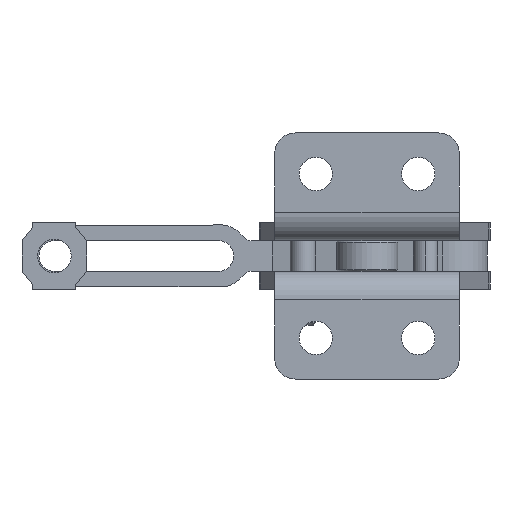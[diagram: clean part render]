
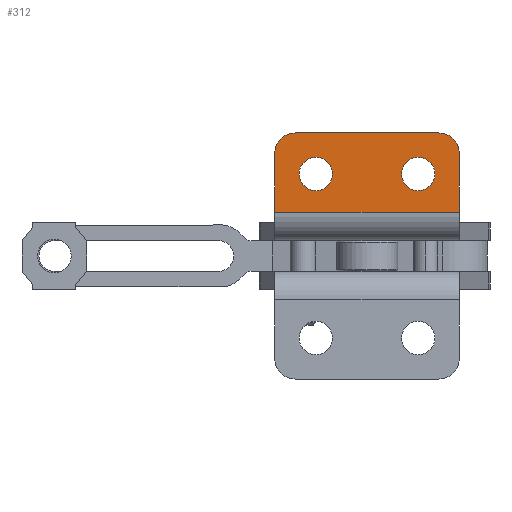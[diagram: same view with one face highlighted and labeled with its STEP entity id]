
A CAD part, front view. The second image highlights one B-rep face of the part: STEP entity #312.
In plain terms, the highlighted planar face has unit normal (0, -1, 0).
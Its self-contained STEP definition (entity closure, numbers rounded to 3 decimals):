
#312 = ADVANCED_FACE( '', ( #600, #601, #602 ), #603, .F. );
#600 = FACE_BOUND( '', #1200, .T. );
#601 = FACE_BOUND( '', #1201, .T. );
#602 = FACE_OUTER_BOUND( '', #1202, .T. );
#603 = PLANE( '', #1203 );
#1200 = EDGE_LOOP( '', ( #1956 ) );
#1201 = EDGE_LOOP( '', ( #1957 ) );
#1202 = EDGE_LOOP( '', ( #1958, #1959, #1960, #1961, #1962, #1963 ) );
#1203 = AXIS2_PLACEMENT_3D( '', #1964, #1965, #1966 );
#1956 = ORIENTED_EDGE( '', *, *, #3754, .T. );
#1957 = ORIENTED_EDGE( '', *, *, #3755, .T. );
#1958 = ORIENTED_EDGE( '', *, *, #3756, .F. );
#1959 = ORIENTED_EDGE( '', *, *, #3757, .F. );
#1960 = ORIENTED_EDGE( '', *, *, #3730, .F. );
#1961 = ORIENTED_EDGE( '', *, *, #3758, .F. );
#1962 = ORIENTED_EDGE( '', *, *, #3759, .T. );
#1963 = ORIENTED_EDGE( '', *, *, #3760, .F. );
#1964 = CARTESIAN_POINT( '', ( 3., 0., 24. ) );
#1965 = DIRECTION( '', ( 0., 1., 0. ) );
#1966 = DIRECTION( '', ( 0., 0., 1. ) );
#3730 = EDGE_CURVE( '', #4362, #4363, #4364, .T. );
#3754 = EDGE_CURVE( '', #4405, #4405, #4406, .T. );
#3755 = EDGE_CURVE( '', #4407, #4407, #4408, .T. );
#3756 = EDGE_CURVE( '', #4409, #4410, #4411, .T. );
#3757 = EDGE_CURVE( '', #4363, #4409, #4412, .T. );
#3758 = EDGE_CURVE( '', #4413, #4362, #4414, .T. );
#3759 = EDGE_CURVE( '', #4413, #4415, #4416, .T. );
#3760 = EDGE_CURVE( '', #4410, #4415, #4417, .T. );
#4362 = VERTEX_POINT( '', #5376 );
#4363 = VERTEX_POINT( '', #5377 );
#4364 = LINE( '', #5378, #5379 );
#4405 = VERTEX_POINT( '', #5439 );
#4406 = CIRCLE( '', #5440, 3.25 );
#4407 = VERTEX_POINT( '', #5441 );
#4408 = CIRCLE( '', #5442, 3.25 );
#4409 = VERTEX_POINT( '', #5443 );
#4410 = VERTEX_POINT( '', #5444 );
#4411 = LINE( '', #5445, #5446 );
#4412 = CIRCLE( '', #5447, 4. );
#4413 = VERTEX_POINT( '', #5448 );
#4414 = CIRCLE( '', #5449, 4. );
#4415 = VERTEX_POINT( '', #5450 );
#4416 = LINE( '', #5451, #5452 );
#4417 = LINE( '', #5453, #5454 );
#5376 = CARTESIAN_POINT( '', ( 7., 0., 24. ) );
#5377 = CARTESIAN_POINT( '', ( 35., 0., 24. ) );
#5378 = CARTESIAN_POINT( '', ( 3., 0., 24. ) );
#5379 = VECTOR( '', #7380, 1000. );
#5439 = CARTESIAN_POINT( '', ( 34.25, 0., 16. ) );
#5440 = AXIS2_PLACEMENT_3D( '', #7412, #7413, #7414 );
#5441 = CARTESIAN_POINT( '', ( 14.25, 0., 16. ) );
#5442 = AXIS2_PLACEMENT_3D( '', #7415, #7416, #7417 );
#5443 = CARTESIAN_POINT( '', ( 39., 0., 20. ) );
#5444 = CARTESIAN_POINT( '', ( 39., 0., 8.5 ) );
#5445 = CARTESIAN_POINT( '', ( 39., 0., 24. ) );
#5446 = VECTOR( '', #7418, 1000. );
#5447 = AXIS2_PLACEMENT_3D( '', #7419, #7420, #7421 );
#5448 = CARTESIAN_POINT( '', ( 3., 0., 20. ) );
#5449 = AXIS2_PLACEMENT_3D( '', #7422, #7423, #7424 );
#5450 = CARTESIAN_POINT( '', ( 3., 0., 8.5 ) );
#5451 = CARTESIAN_POINT( '', ( 3., 0., 24. ) );
#5452 = VECTOR( '', #7425, 1000. );
#5453 = CARTESIAN_POINT( '', ( 100., 0., 8.5 ) );
#5454 = VECTOR( '', #7426, 1000. );
#7380 = DIRECTION( '', ( 1., 0., 0. ) );
#7412 = CARTESIAN_POINT( '', ( 31., 0., 16. ) );
#7413 = DIRECTION( '', ( 0., 1., 0. ) );
#7414 = DIRECTION( '', ( 1., 0., 0. ) );
#7415 = CARTESIAN_POINT( '', ( 11., 0., 16. ) );
#7416 = DIRECTION( '', ( 0., 1., 0. ) );
#7417 = DIRECTION( '', ( 1., 0., 0. ) );
#7418 = DIRECTION( '', ( 0., 0., -1. ) );
#7419 = CARTESIAN_POINT( '', ( 35., 0., 20. ) );
#7420 = DIRECTION( '', ( 0., 1., 0. ) );
#7421 = DIRECTION( '', ( 1., 0., 0. ) );
#7422 = CARTESIAN_POINT( '', ( 7., 0., 20. ) );
#7423 = DIRECTION( '', ( 0., 1., 0. ) );
#7424 = DIRECTION( '', ( 1., 0., 0. ) );
#7425 = DIRECTION( '', ( 0., 0., -1. ) );
#7426 = DIRECTION( '', ( -1., 0., 0. ) );
